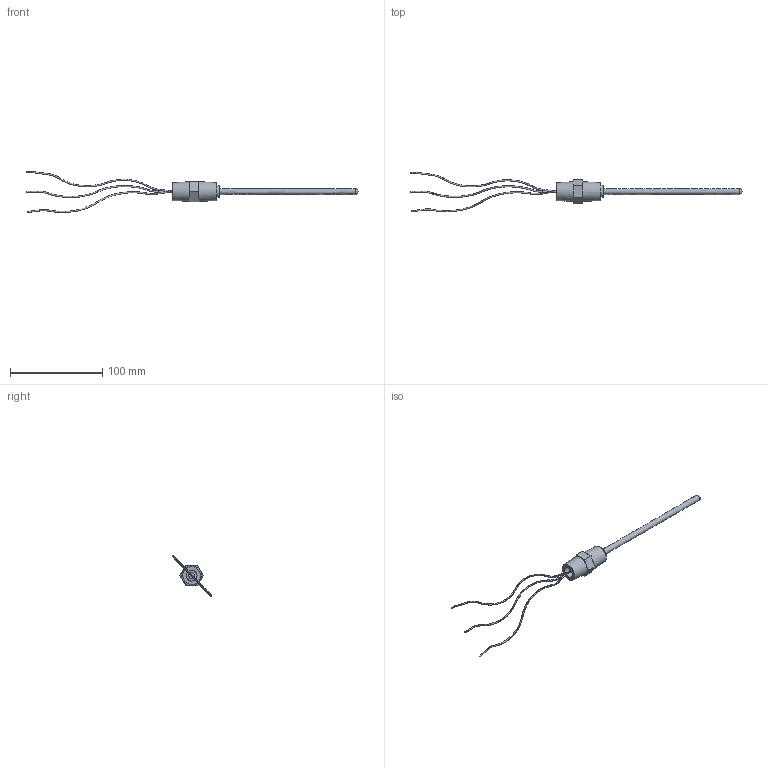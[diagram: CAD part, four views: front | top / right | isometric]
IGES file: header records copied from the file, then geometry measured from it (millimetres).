
Global section: file name: Spring-Loaded-Bushing-RTD-IGS; native system: Autodesk Inventor 2014; preprocessor: unknown; author: Charles; date: 20160114.112521; units: inch
Bounding box: 360.33 x 43.1 x 44.72 mm (x, y, z)
Volume: 15841.9 mm3; surface area: 11741.7 mm2
Topology: 4 solids, 4 shells, 534 faces, 1431 edges, 956 vertices
Faces by surface type: bspline 534
